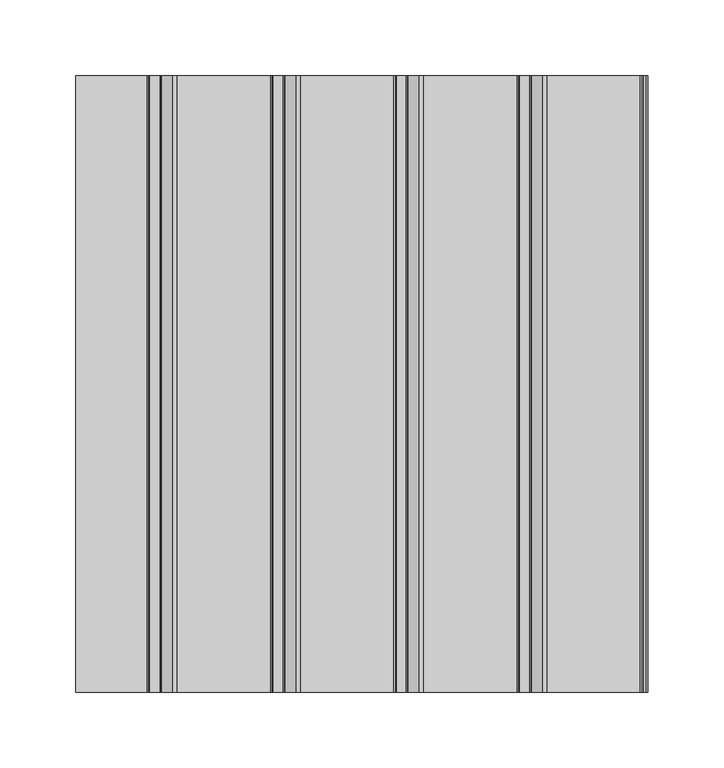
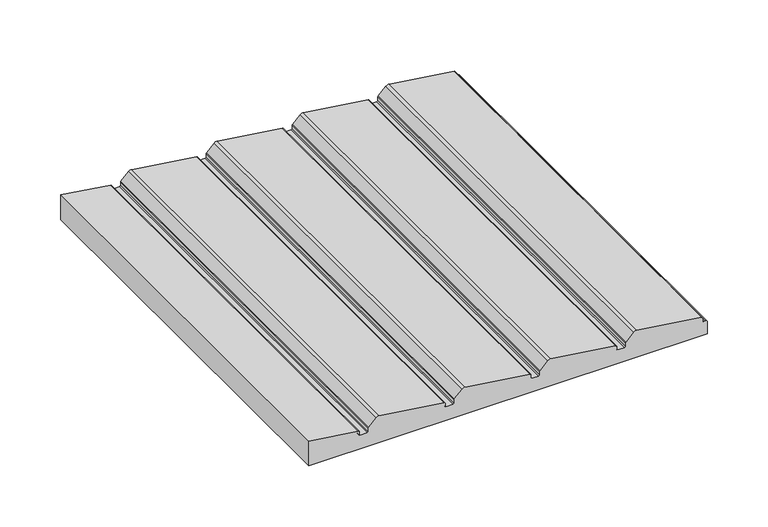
"""IFC4 building model written with IfcOpenShell, lengths in millimetres: proxy geometry, Spinneybeck_Porto 3 : Porto 3."""

from ifc_helpers import new_model, si_unit, point, frame, frame_2d, origin, place, context, project, spatial, polyline, circle_curve, trimmed, segment, composite_curve, outline, extrude, source, transform, mapped, element, save


def specialty_equipment_3cc16988(model_context):
    return source(origin(), model_context, "Body", "SweptSolid", [
        extrude(outline(composite_curve([segment(polyline([(0.0, -174.0753011), (0.0, 203.2), (12.5078125, 203.2)]), True, "CONTINUOUS"), segment(trimmed(circle_curve(frame_2d((12.5078125, 202.2078125)), 0.9921875), [point((12.5078125, 203.2))], [point((13.5, 202.2078125))], False, "CARTESIAN"), True, "CONTINUOUS"), segment(polyline([(13.5, 202.2078125), (13.5, 199.9465867)]), True, "CONTINUOUS"), segment(trimmed(circle_curve(frame_2d((14.4921875, 199.9465867)), 0.9921875), [point((13.5, 199.9465867))], [point((14.4921875, 198.9543992))], True, "CARTESIAN"), True, "CONTINUOUS"), segment(polyline([(14.4921875, 198.9543992), (17.1606187, 198.9543992)]), True, "CONTINUOUS"), segment(trimmed(circle_curve(frame_2d((17.1606187, 197.9749387)), 0.9794605), [point((17.1606187, 198.9543992))], [point((18.1109851, 198.2118916))], False, "CARTESIAN"), True, "CONTINUOUS"), segment(polyline([(18.1109851, 198.2118916), (26.76592, 136.6288293)]), True, "CONTINUOUS"), segment(trimmed(circle_curve(frame_2d((23.4253126, 136.1593376)), 3.3734375), [point((26.76592, 136.6288293))], [point((25.8106931, 133.773957))], False, "CARTESIAN"), True, "CONTINUOUS"), segment(polyline([(25.8106931, 133.773957), (18.5722569, 126.5355208)]), True, "CONTINUOUS"), segment(trimmed(circle_curve(frame_2d((17.6791911, 127.4285866)), 1.2629857), [point((18.5722569, 126.5355208))], [point((17.6791911, 126.1656008))], False, "CARTESIAN"), True, "CONTINUOUS"), segment(polyline([(17.6791911, 126.1656008), (14.4921875, 126.1656008)]), True, "CONTINUOUS"), segment(trimmed(circle_curve(frame_2d((14.4921875, 125.1734133)), 0.9921875), [point((14.4921875, 126.1656008))], [point((13.5, 125.1734133))], True, "CARTESIAN"), True, "CONTINUOUS"), segment(polyline([(13.5, 125.1734133), (13.5, 118.6665867)]), True, "CONTINUOUS"), segment(trimmed(circle_curve(frame_2d((14.4921875, 118.6665867)), 0.9921875), [point((13.5, 118.6665867))], [point((14.4921875, 117.6743992))], True, "CARTESIAN"), True, "CONTINUOUS"), segment(polyline([(14.4921875, 117.6743992), (17.1606187, 117.6743992)]), True, "CONTINUOUS"), segment(trimmed(circle_curve(frame_2d((17.1606187, 116.6949387)), 0.9794605), [point((17.1606187, 117.6743992))], [point((18.1109851, 116.9318916))], False, "CARTESIAN"), True, "CONTINUOUS"), segment(polyline([(18.1109851, 116.9318916), (26.76592, 55.3488293)]), True, "CONTINUOUS"), segment(trimmed(circle_curve(frame_2d((23.4253126, 54.8793376)), 3.3734375), [point((26.76592, 55.3488293))], [point((25.8106931, 52.493957))], False, "CARTESIAN"), True, "CONTINUOUS"), segment(polyline([(25.8106931, 52.493957), (18.5722569, 45.2555208)]), True, "CONTINUOUS"), segment(trimmed(circle_curve(frame_2d((17.6791911, 46.1485866)), 1.2629857), [point((18.5722569, 45.2555208))], [point((17.6791911, 44.8856008))], False, "CARTESIAN"), True, "CONTINUOUS"), segment(polyline([(17.6791911, 44.8856008), (14.4921875, 44.8856008)]), True, "CONTINUOUS"), segment(trimmed(circle_curve(frame_2d((14.4921875, 43.8934133)), 0.9921875), [point((14.4921875, 44.8856008))], [point((13.5, 43.8934133))], True, "CARTESIAN"), True, "CONTINUOUS"), segment(polyline([(13.5, 43.8934133), (13.5, 37.3865867)]), True, "CONTINUOUS"), segment(trimmed(circle_curve(frame_2d((14.4921875, 37.3865867)), 0.9921875), [point((13.5, 37.3865867))], [point((14.4921875, 36.3943992))], True, "CARTESIAN"), True, "CONTINUOUS"), segment(polyline([(14.4921875, 36.3943992), (17.1606187, 36.3943992)]), True, "CONTINUOUS"), segment(trimmed(circle_curve(frame_2d((17.1606187, 35.4149387)), 0.9794605), [point((17.1606187, 36.3943992))], [point((18.1109851, 35.6518916))], False, "CARTESIAN"), True, "CONTINUOUS"), segment(polyline([(18.1109851, 35.6518916), (26.76592, -25.9311707)]), True, "CONTINUOUS"), segment(trimmed(circle_curve(frame_2d((23.4253126, -26.4006624)), 3.3734375), [point((26.76592, -25.9311707))], [point((25.8106931, -28.786043))], False, "CARTESIAN"), True, "CONTINUOUS"), segment(polyline([(25.8106931, -28.786043), (18.5722569, -36.0244792)]), True, "CONTINUOUS"), segment(trimmed(circle_curve(frame_2d((17.6791911, -35.1314134)), 1.2629857), [point((18.5722569, -36.0244792))], [point((17.6791911, -36.3943992))], False, "CARTESIAN"), True, "CONTINUOUS"), segment(polyline([(17.6791911, -36.3943992), (14.4921875, -36.3943992)]), True, "CONTINUOUS"), segment(trimmed(circle_curve(frame_2d((14.4921875, -37.3865867)), 0.9921875), [point((14.4921875, -36.3943992))], [point((13.5, -37.3865867))], True, "CARTESIAN"), True, "CONTINUOUS"), segment(polyline([(13.5, -37.3865867), (13.5, -43.8934133)]), True, "CONTINUOUS"), segment(trimmed(circle_curve(frame_2d((14.4921875, -43.8934133)), 0.9921875), [point((13.5, -43.8934133))], [point((14.4921875, -44.8856008))], True, "CARTESIAN"), True, "CONTINUOUS"), segment(polyline([(14.4921875, -44.8856008), (17.1606187, -44.8856008)]), True, "CONTINUOUS"), segment(trimmed(circle_curve(frame_2d((17.1606187, -45.8650613)), 0.9794605), [point((17.1606187, -44.8856008))], [point((18.1109851, -45.6281084))], False, "CARTESIAN"), True, "CONTINUOUS"), segment(polyline([(18.1109851, -45.6281084), (26.76592, -107.2111707)]), True, "CONTINUOUS"), segment(trimmed(circle_curve(frame_2d((23.4253126, -107.6806624)), 3.3734375), [point((26.76592, -107.2111707))], [point((25.8106931, -110.066043))], False, "CARTESIAN"), True, "CONTINUOUS"), segment(polyline([(25.8106931, -110.066043), (18.5722569, -117.3044792)]), True, "CONTINUOUS"), segment(trimmed(circle_curve(frame_2d((17.6791911, -116.4114134)), 1.2629857), [point((18.5722569, -117.3044792))], [point((17.6791911, -117.6743992))], False, "CARTESIAN"), True, "CONTINUOUS"), segment(polyline([(17.6791911, -117.6743992), (14.4921875, -117.6743992)]), True, "CONTINUOUS"), segment(trimmed(circle_curve(frame_2d((14.4921875, -118.6665867)), 0.9921875), [point((14.4921875, -117.6743992))], [point((13.5, -118.6665867))], True, "CARTESIAN"), True, "CONTINUOUS"), segment(polyline([(13.5, -118.6665867), (13.5, -125.1734133)]), True, "CONTINUOUS"), segment(trimmed(circle_curve(frame_2d((14.4921875, -125.1734133)), 0.9921875), [point((13.5, -125.1734133))], [point((14.4921875, -126.1656008))], True, "CARTESIAN"), True, "CONTINUOUS"), segment(polyline([(14.4921875, -126.1656008), (17.1606187, -126.1656008)]), True, "CONTINUOUS"), segment(trimmed(circle_curve(frame_2d((17.1606187, -127.1450613)), 0.9794605), [point((17.1606187, -126.1656008))], [point((18.1109851, -126.9081084))], False, "CARTESIAN"), True, "CONTINUOUS"), segment(polyline([(18.1109851, -126.9081084), (24.7399017, -174.0753011), (0.0, -174.0753011)]), True, "CONTINUOUS")], self_intersect=False)), frame((0.0, -203.2, 0.0), z_axis=(0.0, 1.0, 0.0), x_axis=(0.0, 0.0, 1.0)), (0.0, 0.0, 1.0), 406.4),
    ])


if __name__ == "__main__":
    model = new_model("IFC4")
    model_context = context("Model", 3, world=origin())
    ifc_project = project(units=[si_unit("LENGTHUNIT", "METRE", prefix="MILLI")], contexts=[model_context])
    site = spatial("IfcSite", under=ifc_project)
    building = spatial("IfcBuilding", under=site)
    placement = place(None, origin())
    specialty_equipment_shape = specialty_equipment_3cc16988(model_context)
    element("IfcBuildingElementProxy", 1, Name="Spinneybeck_Porto 3 : Porto 3", ObjectType="Spinneybeck_Porto 3 : Porto 3", at=placement, inside=building, context=model_context, shape_type="MappedRepresentation", body=[
        mapped(specialty_equipment_shape, transform((0.0, 0.0, 0.0), x_axis=(1.0, 0.0, 0.0), y_axis=(0.0, 1.0, 0.0), z_axis=(0.0, 0.0, 1.0))),
    ])
    save(model, "model.ifc")
